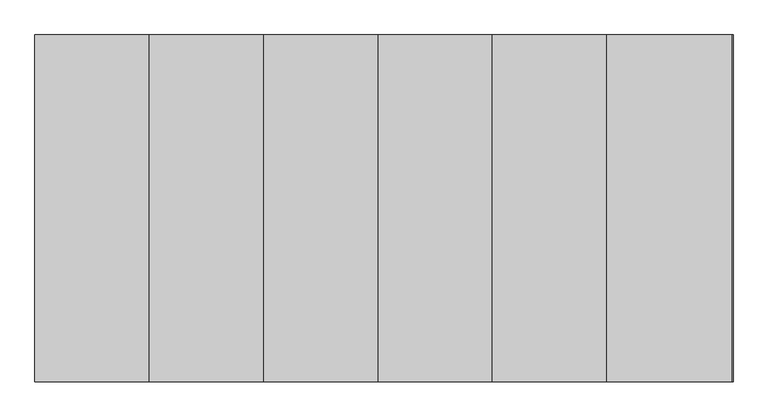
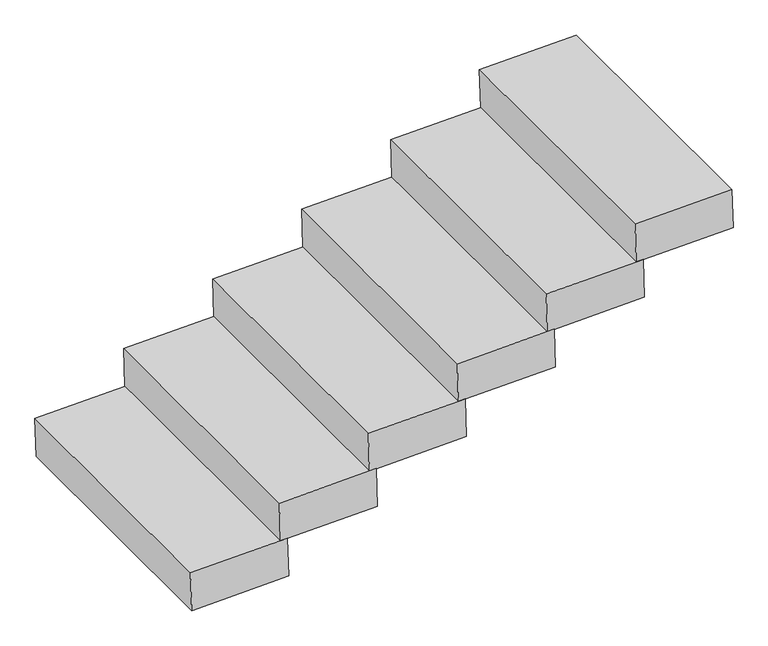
"""IFC4 building model written with IfcOpenShell, lengths in millimetres: stair flight geometry, Blockstufe - vollkantig - B 36cm, H 15cm."""

from ifc_helpers import new_model, si_unit, frame, origin, place, context, project, spatial, polyline, outline, extrude, source, transform, mapped, element, save


def stair_flight_353c6861(model_context):
    return source(origin(), model_context, "Body", "SweptSolid", [
        extrude(outline(polyline([(0.0, -360.0), (0.0, 0.0), (1000.0, 0.0), (1000.0, -360.0), (0.0, -360.0)])), frame((93.9710847, -5825.8978657, 43.2), z_axis=(-0.02792163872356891, 0.0, 0.9996101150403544), x_axis=(0.0, 1.0, 0.0)), (0.0, 0.0, 1.0), 150.0),
        extrude(outline(polyline([(0.0, -360.0), (0.0, 0.0), (1000.0, 0.0), (1000.0, -360.0), (0.0, -360.0)])), frame((423.9710847, -5825.8978657, 201.4), z_axis=(-0.02792163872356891, 0.0, 0.9996101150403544), x_axis=(0.0, 1.0, 0.0)), (0.0, 0.0, 1.0), 150.0),
        extrude(outline(polyline([(0.0, -360.0), (0.0, 0.0), (1000.0, 0.0), (1000.0, -360.0), (0.0, -360.0)])), frame((753.9710847, -5825.8978657, 359.6), z_axis=(-0.02792163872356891, 0.0, 0.9996101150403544), x_axis=(0.0, 1.0, 0.0)), (0.0, 0.0, 1.0), 150.0),
        extrude(outline(polyline([(0.0, -360.0), (0.0, 0.0), (1000.0, 0.0), (1000.0, -360.0), (0.0, -360.0)])), frame((1083.9710847, -5825.8978657, 517.8), z_axis=(-0.02792163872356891, 0.0, 0.9996101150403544), x_axis=(0.0, 1.0, 0.0)), (0.0, 0.0, 1.0), 150.0),
        extrude(outline(polyline([(0.0, -360.0), (0.0, 0.0), (1000.0, 0.0), (1000.0, -360.0), (0.0, -360.0)])), frame((1413.9710847, -5825.8978657, 676.0), z_axis=(-0.02792163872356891, 0.0, 0.9996101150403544), x_axis=(0.0, 1.0, 0.0)), (0.0, 0.0, 1.0), 150.0),
        extrude(outline(polyline([(0.0, -360.0), (0.0, 0.0), (1000.0, 0.0), (1000.0, -360.0), (0.0, -360.0)])), frame((1743.9710847, -5825.8978657, 834.2), z_axis=(-0.02792163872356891, 0.0, 0.9996101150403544), x_axis=(0.0, 1.0, 0.0)), (0.0, 0.0, 1.0), 150.0),
    ])


if __name__ == "__main__":
    model = new_model("IFC4")
    model_context = context("Model", 3, world=origin())
    ifc_project = project(units=[si_unit("LENGTHUNIT", "METRE", prefix="MILLI")], contexts=[model_context])
    site = spatial("IfcSite", under=ifc_project)
    building = spatial("IfcBuilding", under=site)
    placement = place(None, origin())
    stair_flight_shape = stair_flight_353c6861(model_context)
    element("IfcStairFlight", 1, ObjectType="Blockstufe - vollkantig - B 36cm, H 15cm", at=placement, inside=building, context=model_context, shape_type="MappedRepresentation", body=[
        mapped(stair_flight_shape, transform((0.0, 0.0, 0.0), x_axis=(1.0, 0.0, 0.0), y_axis=(0.0, 1.0, 0.0), z_axis=(0.0, 0.0, 1.0))),
    ])
    save(model, "model.ifc")
